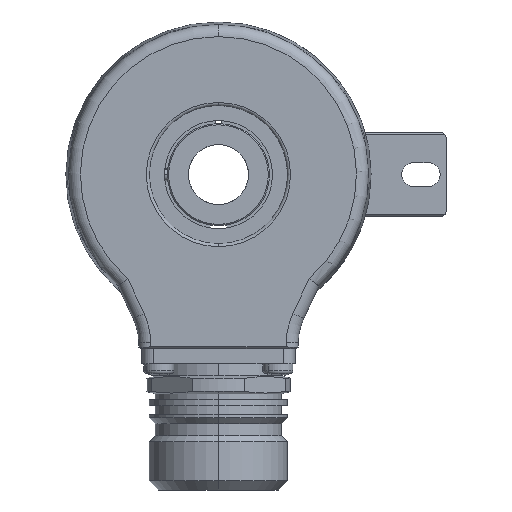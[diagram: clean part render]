
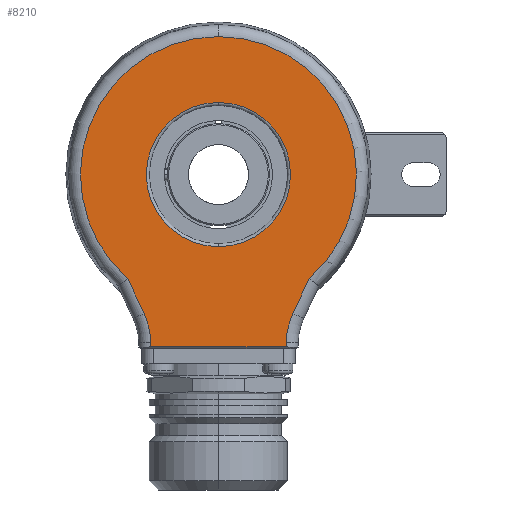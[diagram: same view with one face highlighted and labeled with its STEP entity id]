
A CAD part, left-side view. The second image highlights one B-rep face of the part: STEP entity #8210.
In plain terms, the highlighted planar face has unit normal (-1, 0, 0).
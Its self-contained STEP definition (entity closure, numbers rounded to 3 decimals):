
#4203 = CARTESIAN_POINT ( 'NONE',  ( -21., 0., -12. ) ) ;
#4473 = DIRECTION ( 'NONE',  ( 0., 0., 1. ) ) ;
#4474 = DIRECTION ( 'NONE',  ( 1., 0., 0. ) ) ;
#4475 = CARTESIAN_POINT ( 'NONE',  ( -21., 0., 0. ) ) ;
#4476 = AXIS2_PLACEMENT_3D ( 'NONE', #4475, #4474, #4473 ) ;
#4477 = CIRCLE ( 'NONE', #4476, 12. ) ;
#4478 = CARTESIAN_POINT ( 'NONE',  ( -21., 0., 12. ) ) ;
#4772 = CARTESIAN_POINT ( 'NONE',  ( -21., 0., 0. ) ) ;
#4818 = DIRECTION ( 'NONE',  ( 0., 0., 1. ) ) ;
#4819 = DIRECTION ( 'NONE',  ( 1., 0., 0. ) ) ;
#4820 = AXIS2_PLACEMENT_3D ( 'NONE', #4772, #4819, #4818 ) ;
#4821 = CIRCLE ( 'NONE', #4820, 12. ) ;
#4862 = CARTESIAN_POINT ( 'NONE',  ( -21., 0., 0. ) ) ;
#4867 = CARTESIAN_POINT ( 'NONE',  ( -21., 0., 22.972 ) ) ;
#4869 = CARTESIAN_POINT ( 'NONE',  ( -21., 15.091, -17.32 ) ) ;
#4911 = DIRECTION ( 'NONE',  ( 0., 0., 1. ) ) ;
#4912 = DIRECTION ( 'NONE',  ( -1., 0., 0. ) ) ;
#4913 = AXIS2_PLACEMENT_3D ( 'NONE', #4862, #4912, #4911 ) ;
#4914 = CIRCLE ( 'NONE', #4913, 22.972 ) ;
#4925 = DIRECTION ( 'NONE',  ( 0., 0., 1. ) ) ;
#4926 = DIRECTION ( 'NONE',  ( 1., 0., 0. ) ) ;
#4927 = CARTESIAN_POINT ( 'NONE',  ( -21., -23.266, -28.183 ) ) ;
#4928 = AXIS2_PLACEMENT_3D ( 'NONE', #4927, #4926, #4925 ) ;
#4929 = CIRCLE ( 'NONE', #4928, 12. ) ;
#5215 = DIRECTION ( 'NONE',  ( 0., 0., 1. ) ) ;
#5216 = DIRECTION ( 'NONE',  ( 1., 0., 0. ) ) ;
#5217 = CARTESIAN_POINT ( 'NONE',  ( -21., 23.266, -28.183 ) ) ;
#5218 = AXIS2_PLACEMENT_3D ( 'NONE', #5217, #5216, #5215 ) ;
#5219 = CIRCLE ( 'NONE', #5218, 12. ) ;
#5221 = CARTESIAN_POINT ( 'NONE',  ( -21., 11.268, -27.974 ) ) ;
#5237 = DIRECTION ( 'NONE',  ( 0., -0.423, 0.906 ) ) ;
#5238 = VECTOR ( 'NONE', #5237, 1000. ) ;
#5239 = CARTESIAN_POINT ( 'NONE',  ( -21., -14.953, -17.615 ) ) ;
#5242 = CARTESIAN_POINT ( 'NONE',  ( -21., -15.091, -17.32 ) ) ;
#5243 = LINE ( 'NONE', #5239, #5238 ) ;
#5331 = DIRECTION ( 'NONE',  ( 0., 0., 1. ) ) ;
#5332 = DIRECTION ( 'NONE',  ( -1., 0., 0. ) ) ;
#5333 = CARTESIAN_POINT ( 'NONE',  ( -21., 0., 0. ) ) ;
#5334 = AXIS2_PLACEMENT_3D ( 'NONE', #5333, #5332, #5331 ) ;
#5339 = CIRCLE ( 'NONE', #5334, 22.972 ) ;
#5474 = CARTESIAN_POINT ( 'NONE',  ( -21., -11.268, -27.974 ) ) ;
#5593 = DIRECTION ( 'NONE',  ( 0., -0.423, -0.906 ) ) ;
#5594 = VECTOR ( 'NONE', #5593, 1000. ) ;
#5595 = CARTESIAN_POINT ( 'NONE',  ( -21., 12.39, -23.112 ) ) ;
#5596 = LINE ( 'NONE', #5595, #5594 ) ;
#5597 = CARTESIAN_POINT ( 'NONE',  ( -21., 12.39, -23.112 ) ) ;
#5641 = CARTESIAN_POINT ( 'NONE',  ( -21., -12.39, -23.112 ) ) ;
#5861 = DIRECTION ( 'NONE',  ( 0., -0.017, 1. ) ) ;
#5862 = VECTOR ( 'NONE', #5861, 1000. ) ;
#5863 = CARTESIAN_POINT ( 'NONE',  ( -21., -11.752, -0.205 ) ) ;
#5864 = LINE ( 'NONE', #5863, #5862 ) ;
#6390 = DIRECTION ( 'NONE',  ( 0., 0., 1. ) ) ;
#6391 = DIRECTION ( 'NONE',  ( 1., 0., 0. ) ) ;
#6392 = CARTESIAN_POINT ( 'NONE',  ( -21., 0., 0. ) ) ;
#6393 = AXIS2_PLACEMENT_3D ( 'NONE', #6392, #6391, #6390 ) ;
#6394 = PLANE ( 'NONE',  #6393 ) ;
#6409 = FACE_OUTER_BOUND ( 'NONE', #8212, .T. ) ;
#6410 = FACE_BOUND ( 'NONE', #8211, .T. ) ;
#6507 = CARTESIAN_POINT ( 'NONE',  ( -21., -11.255, -28.695 ) ) ;
#7489 = VERTEX_POINT ( 'NONE', #4203 ) ;
#7583 = VERTEX_POINT ( 'NONE', #4478 ) ;
#7584 = EDGE_CURVE ( 'NONE', #7583, #7489, #4477, .T. ) ;
#7695 = EDGE_CURVE ( 'NONE', #7489, #7583, #4821, .T. ) ;
#7714 = VERTEX_POINT ( 'NONE', #4869 ) ;
#7717 = VERTEX_POINT ( 'NONE', #4867 ) ;
#7720 = EDGE_CURVE ( 'NONE', #7717, #7714, #4914, .T. ) ;
#7747 = EDGE_CURVE ( 'NONE', #7912, #7974, #4929, .T. ) ;
#7826 = VERTEX_POINT ( 'NONE', #5221 ) ;
#7828 = EDGE_CURVE ( 'NONE', #7959, #7826, #5219, .T. ) ;
#7838 = VERTEX_POINT ( 'NONE', #5242 ) ;
#7840 = EDGE_CURVE ( 'NONE', #7974, #7838, #5243, .T. ) ;
#7866 = EDGE_CURVE ( 'NONE', #7838, #7717, #5339, .T. ) ;
#7912 = VERTEX_POINT ( 'NONE', #5474 ) ;
#7959 = VERTEX_POINT ( 'NONE', #5597 ) ;
#7961 = EDGE_CURVE ( 'NONE', #7714, #7959, #5596, .T. ) ;
#7974 = VERTEX_POINT ( 'NONE', #5641 ) ;
#8024 = ORIENTED_EDGE ( 'NONE', *, *, #7840, .T. ) ;
#8026 = ORIENTED_EDGE ( 'NONE', *, *, #7866, .T. ) ;
#8027 = ORIENTED_EDGE ( 'NONE', *, *, #7720, .T. ) ;
#8028 = ORIENTED_EDGE ( 'NONE', *, *, #8031, .T. ) ;
#8029 = ORIENTED_EDGE ( 'NONE', *, *, #7747, .T. ) ;
#8030 = ORIENTED_EDGE ( 'NONE', *, *, #8277, .T. ) ;
#8031 = EDGE_CURVE ( 'NONE', #8252, #7912, #5864, .T. ) ;
#8035 = ORIENTED_EDGE ( 'NONE', *, *, #7584, .T. ) ;
#8036 = ORIENTED_EDGE ( 'NONE', *, *, #7695, .T. ) ;
#8119 = ORIENTED_EDGE ( 'NONE', *, *, #8266, .T. ) ;
#8120 = ORIENTED_EDGE ( 'NONE', *, *, #7961, .T. ) ;
#8121 = ORIENTED_EDGE ( 'NONE', *, *, #7828, .T. ) ;
#8210 = ADVANCED_FACE ( 'NONE', ( #6410, #6409 ), #6394, .F. ) ;
#8211 = EDGE_LOOP ( 'NONE', ( #8035, #8036 ) ) ;
#8212 = EDGE_LOOP ( 'NONE', ( #8119, #8030, #8028, #8029, #8024, #8026, #8027, #8120, #8121 ) ) ;
#8252 = VERTEX_POINT ( 'NONE', #6507 ) ;
#8266 = EDGE_CURVE ( 'NONE', #7826, #8275, #11613, .T. ) ;
#8275 = VERTEX_POINT ( 'NONE', #11666 ) ;
#8277 = EDGE_CURVE ( 'NONE', #8275, #8252, #11667, .T. ) ;
#11610 = DIRECTION ( 'NONE',  ( 0., -0.017, -1. ) ) ;
#11611 = VECTOR ( 'NONE', #11610, 1000. ) ;
#11612 = CARTESIAN_POINT ( 'NONE',  ( -21., 11.752, -0.205 ) ) ;
#11613 = LINE ( 'NONE', #11612, #11611 ) ;
#11660 = DIRECTION ( 'NONE',  ( 0., -1., 0. ) ) ;
#11661 = VECTOR ( 'NONE', #11660, 1000. ) ;
#11662 = CARTESIAN_POINT ( 'NONE',  ( -21., -11.25, -28.695 ) ) ;
#11666 = CARTESIAN_POINT ( 'NONE',  ( -21., 11.255, -28.695 ) ) ;
#11667 = LINE ( 'NONE', #11662, #11661 ) ;
